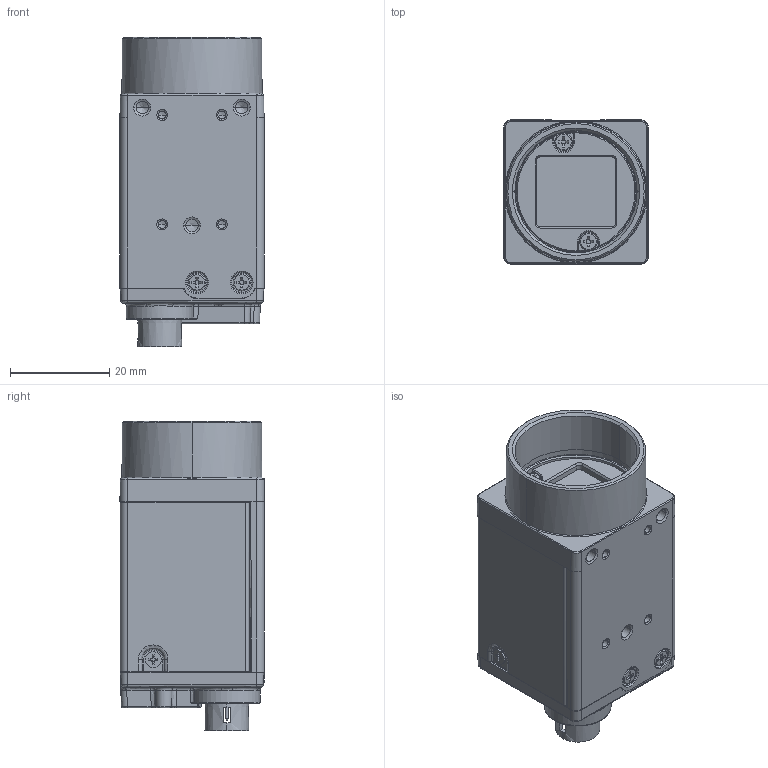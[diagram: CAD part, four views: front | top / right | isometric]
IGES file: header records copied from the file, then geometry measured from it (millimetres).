
Start section:  PTC IGES file: 18-35.igs
Global section: file name: 18-35.igs; native system: Creo Parametric by PTC Inc.; preprocessor: 2020184; author: 21511; organization: Unknown; date: 20240516.104325; units: millimetre
Bounding box: 29 x 29 x 62.25 mm (x, y, z)
Volume: 36660.8 mm3; surface area: 14567.1 mm2
Topology: 1 solids, 12 shells, 1758 faces, 4838 edges, 3077 vertices
Faces by surface type: bspline 1104, revolution 637, extrusion 17
